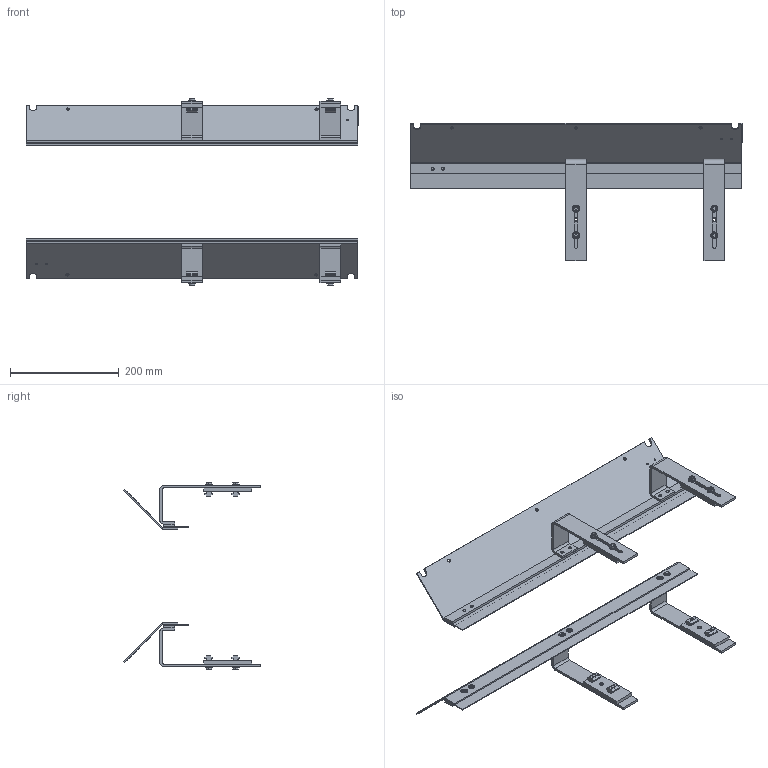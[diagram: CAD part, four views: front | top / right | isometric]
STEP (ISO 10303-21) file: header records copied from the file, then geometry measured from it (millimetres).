
FILE_DESCRIPTION (( 'STEP AP203' ), '1' );
FILE_NAME ('38M602.STEP', '2018-02-27T19:20:39', ( '' ), ( '' ), 'SwSTEP 2.0', 'SolidWorks 2017', '' );
FILE_SCHEMA (( 'CONFIG_CONTROL_DESIGN' ));
Length unit declared in the file: inch
Products named in the file (1): 38M602
Bounding box: 609.7 x 251.81 x 344.59 mm (x, y, z)
Surface area: 641749 mm2 (no closed solid volume)
Topology: 0 solids, 66 shells, 940 faces, 2336 edges, 1520 vertices
Faces by surface type: plane 436, cylinder 384, cone 120
Entity records: 29072 total; most frequent: CARTESIAN_POINT 5685, DIRECTION 5066, ORIENTED_EDGE 4576, EDGE_CURVE 2336, AXIS2_PLACEMENT_3D 1813, VERTEX_POINT 1520, LINE 1440, VECTOR 1440
